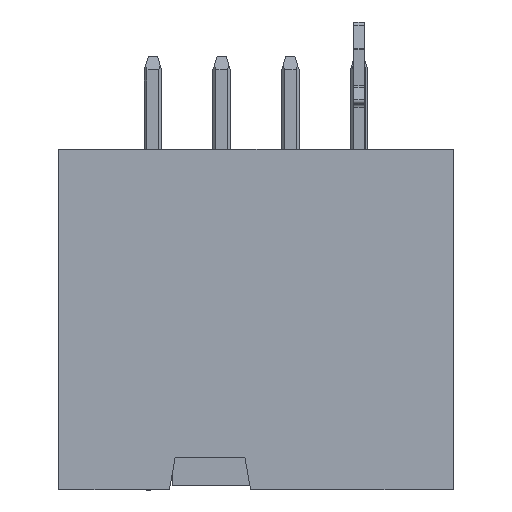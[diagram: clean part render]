
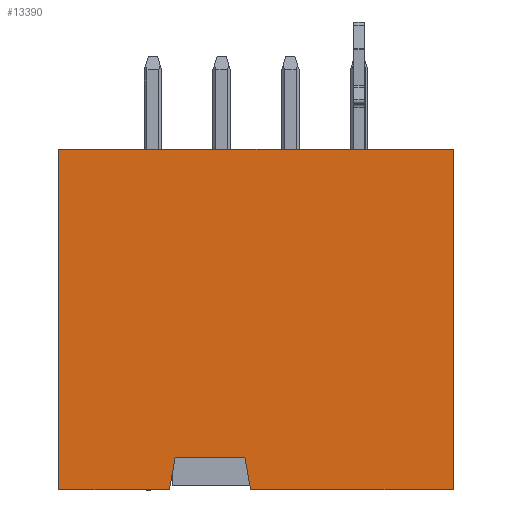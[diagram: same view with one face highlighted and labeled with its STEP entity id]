
A CAD part, left-side view. The second image highlights one B-rep face of the part: STEP entity #13390.
In plain terms, the highlighted planar face has unit normal (-1, 0, 0).
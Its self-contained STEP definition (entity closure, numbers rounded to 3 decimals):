
#3274 = VERTEX_POINT ( 'NONE', #21001 ) ;
#3277 = VERTEX_POINT ( 'NONE', #21004 ) ;
#3549 = VERTEX_POINT ( 'NONE', #21337 ) ;
#3551 = VERTEX_POINT ( 'NONE', #21339 ) ;
#3841 = VERTEX_POINT ( 'NONE', #21633 ) ;
#3842 = VERTEX_POINT ( 'NONE', #21634 ) ;
#6823 = CARTESIAN_POINT ( 'NONE',  ( -53.401, 14.629, 0.79 ) ) ;
#11017 = EDGE_CURVE ( 'NONE', #3549, #3551, #40077, .T. ) ;
#11043 = EDGE_CURVE ( 'NONE', #3549, #3274, #40154, .T. ) ;
#13008 = EDGE_CURVE ( 'NONE', #3277, #20748, #52501, .T. ) ;
#13033 = EDGE_CURVE ( 'NONE', #3551, #3841, #52629, .T. ) ;
#13034 = EDGE_CURVE ( 'NONE', #3841, #3842, #52668, .T. ) ;
#13035 = EDGE_CURVE ( 'NONE', #51470, #3842, #52673, .T. ) ;
#13390 = ADVANCED_FACE ( 'NONE', ( #62324 ), #62304, .F. ) ;
#14654 = EDGE_LOOP ( 'NONE', ( #19855, #19856, #19857, #19858, #19859, #19860, #19861, #19862 ) ) ;
#16117 = EDGE_CURVE ( 'NONE', #3277, #3274, #53634, .T. ) ;
#16740 = EDGE_CURVE ( 'NONE', #20748, #51470, #70407, .T. ) ;
#19855 = ORIENTED_EDGE ( 'NONE', *, *, #11017, .T. ) ;
#19856 = ORIENTED_EDGE ( 'NONE', *, *, #13033, .T. ) ;
#19857 = ORIENTED_EDGE ( 'NONE', *, *, #13034, .T. ) ;
#19858 = ORIENTED_EDGE ( 'NONE', *, *, #13035, .F. ) ;
#19859 = ORIENTED_EDGE ( 'NONE', *, *, #16740, .F. ) ;
#19860 = ORIENTED_EDGE ( 'NONE', *, *, #13008, .F. ) ;
#19861 = ORIENTED_EDGE ( 'NONE', *, *, #16117, .T. ) ;
#19862 = ORIENTED_EDGE ( 'NONE', *, *, #11043, .F. ) ;
#20748 = VERTEX_POINT ( 'NONE', #72051 ) ;
#21001 = CARTESIAN_POINT ( 'NONE',  ( -53.401, 10.328, -10.61 ) ) ;
#21004 = CARTESIAN_POINT ( 'NONE',  ( -53.401, 10.539, -11.81 ) ) ;
#21337 = CARTESIAN_POINT ( 'NONE',  ( -53.401, 7.751, -10.61 ) ) ;
#21339 = CARTESIAN_POINT ( 'NONE',  ( -53.401, 7.539, -11.81 ) ) ;
#21633 = CARTESIAN_POINT ( 'NONE',  ( -53.401, 0.049, -11.81 ) ) ;
#21634 = CARTESIAN_POINT ( 'NONE',  ( -53.401, 0.049, 0.79 ) ) ;
#38815 = VECTOR ( 'NONE', #40080, 1000. ) ;
#38846 = VECTOR ( 'NONE', #40156, 1000. ) ;
#40077 = LINE ( 'NONE', #40079, #38815 ) ;
#40079 = CARTESIAN_POINT ( 'NONE',  ( -53.401, 7.751, -10.61 ) ) ;
#40080 = DIRECTION ( 'NONE',  ( 0., -0.174, -0.985 ) ) ;
#40154 = LINE ( 'NONE', #40155, #38846 ) ;
#40155 = CARTESIAN_POINT ( 'NONE',  ( -53.401, 14.629, -10.61 ) ) ;
#40156 = DIRECTION ( 'NONE',  ( 0., 1., 0. ) ) ;
#50789 = VECTOR ( 'NONE', #53680, 1000. ) ;
#51470 = VERTEX_POINT ( 'NONE', #6823 ) ;
#52501 = LINE ( 'NONE', #52504, #53751 ) ;
#52504 = CARTESIAN_POINT ( 'NONE',  ( -53.401, 14.629, -11.81 ) ) ;
#52505 = DIRECTION ( 'NONE',  ( 0., 1., 0. ) ) ;
#52629 = LINE ( 'NONE', #52663, #53795 ) ;
#52663 = CARTESIAN_POINT ( 'NONE',  ( -53.401, 0.049, -11.81 ) ) ;
#52666 = DIRECTION ( 'NONE',  ( 0., -1., 0. ) ) ;
#52668 = LINE ( 'NONE', #52670, #53800 ) ;
#52670 = CARTESIAN_POINT ( 'NONE',  ( -53.401, 0.049, 11.81 ) ) ;
#52672 = DIRECTION ( 'NONE',  ( 0., 0., 1. ) ) ;
#52673 = LINE ( 'NONE', #52676, #53802 ) ;
#52676 = CARTESIAN_POINT ( 'NONE',  ( -53.401, 14.629, 0.79 ) ) ;
#52678 = DIRECTION ( 'NONE',  ( 0., -1., 0. ) ) ;
#53634 = LINE ( 'NONE', #53678, #50789 ) ;
#53678 = CARTESIAN_POINT ( 'NONE',  ( -53.401, 10.328, -10.61 ) ) ;
#53680 = DIRECTION ( 'NONE',  ( 0., -0.174, 0.985 ) ) ;
#53751 = VECTOR ( 'NONE', #52505, 1000. ) ;
#53795 = VECTOR ( 'NONE', #52666, 1000. ) ;
#53800 = VECTOR ( 'NONE', #52672, 1000. ) ;
#53802 = VECTOR ( 'NONE', #52678, 1000. ) ;
#59340 = AXIS2_PLACEMENT_3D ( 'NONE', #62337, #62338, #62340 ) ;
#62304 = PLANE ( 'NONE',  #59340 ) ;
#62324 = FACE_OUTER_BOUND ( 'NONE', #14654, .T. ) ;
#62337 = CARTESIAN_POINT ( 'NONE',  ( -53.401, 14.629, 11.81 ) ) ;
#62338 = DIRECTION ( 'NONE',  ( 1., 0., 0. ) ) ;
#62340 = DIRECTION ( 'NONE',  ( 0., 0., -1. ) ) ;
#68453 = VECTOR ( 'NONE', #70410, 1000. ) ;
#70407 = LINE ( 'NONE', #70409, #68453 ) ;
#70409 = CARTESIAN_POINT ( 'NONE',  ( -53.401, 14.629, 11.81 ) ) ;
#70410 = DIRECTION ( 'NONE',  ( 0., 0., 1. ) ) ;
#72051 = CARTESIAN_POINT ( 'NONE',  ( -53.401, 14.629, -11.81 ) ) ;
